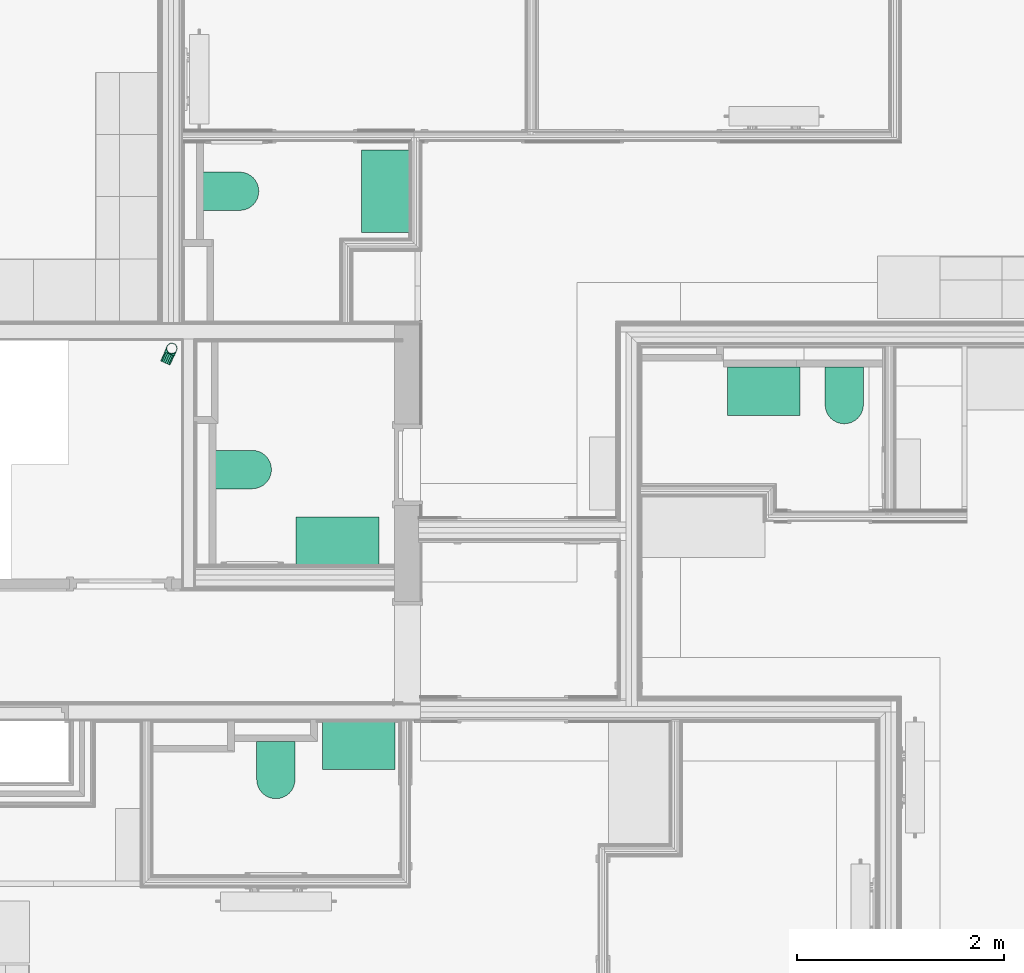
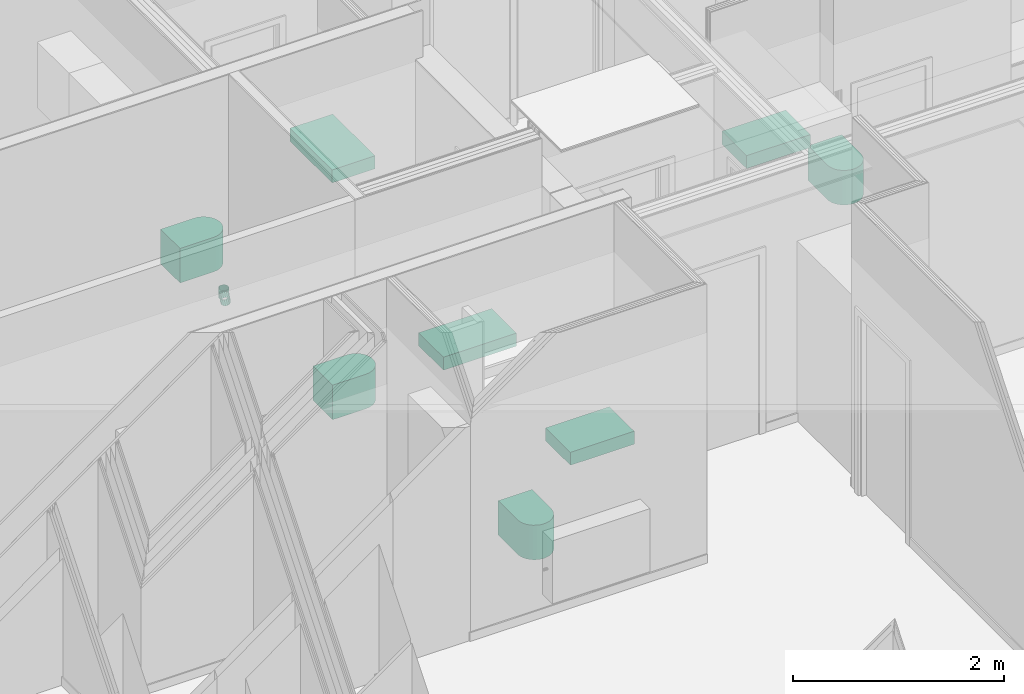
# One storey, part 62 of 65: 8 flow terminals, 1 flow fitting, 1 flow segment.
"""IFC2X3 building model written with IfcOpenShell, lengths in metres."""

from ifc_helpers import new_model, entity, si_unit, converted_unit, derived_unit, money_unit, direction, frame, origin_with_axes, place, context, subcontext, project, spatial, open_shell, faceted_brep, surface_model, material, type_object, element, save


model = new_model("IFC2X3")

# Units and contexts
model_context = context("Model", 3, precision=1e-05, world=origin_with_axes(), true_north=direction((0.0, 1.0)))
body_context = subcontext(model_context, "Body", "Model", "MODEL_VIEW", scale=1.0)
ifc_project = project(units=[si_unit("LENGTHUNIT", "METRE"), si_unit("AREAUNIT", "SQUARE_METRE"), si_unit("VOLUMEUNIT", "CUBIC_METRE"), si_unit("ABSORBEDDOSEUNIT", "GRAY"), si_unit("AMOUNTOFSUBSTANCEUNIT", "MOLE"), si_unit("DOSEEQUIVALENTUNIT", "SIEVERT"), si_unit("ELECTRICCAPACITANCEUNIT", "FARAD"), si_unit("ELECTRICCHARGEUNIT", "COULOMB"), si_unit("ELECTRICCONDUCTANCEUNIT", "SIEMENS"), si_unit("ELECTRICCURRENTUNIT", "AMPERE"), si_unit("ELECTRICRESISTANCEUNIT", "OHM"), si_unit("ELECTRICVOLTAGEUNIT", "VOLT"), si_unit("ENERGYUNIT", "JOULE"), si_unit("FORCEUNIT", "NEWTON"), si_unit("FREQUENCYUNIT", "HERTZ"), si_unit("ILLUMINANCEUNIT", "LUX"), si_unit("INDUCTANCEUNIT", "HENRY"), si_unit("LUMINOUSFLUXUNIT", "LUMEN"), si_unit("LUMINOUSINTENSITYUNIT", "CANDELA"), si_unit("MAGNETICFLUXDENSITYUNIT", "TESLA"), si_unit("MAGNETICFLUXUNIT", "WEBER"), si_unit("MASSUNIT", "GRAM"), converted_unit("PLANEANGLEUNIT", "degree", entity("IfcReal", 0.0174532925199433), si_unit("PLANEANGLEUNIT", "RADIAN"), dimensions=[0, 0, 0, 0, 0, 0, 0]), si_unit("POWERUNIT", "WATT"), si_unit("PRESSUREUNIT", "PASCAL"), si_unit("RADIOACTIVITYUNIT", "BECQUEREL"), si_unit("SOLIDANGLEUNIT", "STERADIAN"), si_unit("THERMODYNAMICTEMPERATUREUNIT", "KELVIN"), si_unit("TIMEUNIT", "SECOND"), derived_unit("ACCELERATIONUNIT", [(si_unit("LENGTHUNIT", "METRE"), 1), (si_unit("TIMEUNIT", "SECOND"), -2)]), derived_unit("ANGULARVELOCITYUNIT", [(converted_unit("PLANEANGLEUNIT", "degree", entity("IfcReal", 0.0174532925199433), si_unit("PLANEANGLEUNIT", "RADIAN"), dimensions=[0, 0, 0, 0, 0, 0, 0]), 1), (si_unit("TIMEUNIT", "SECOND"), -1)]), derived_unit("CURVATUREUNIT", [(converted_unit("PLANEANGLEUNIT", "degree", entity("IfcReal", 0.0174532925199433), si_unit("PLANEANGLEUNIT", "RADIAN"), dimensions=[0, 0, 0, 0, 0, 0, 0]), 1), (si_unit("LENGTHUNIT", "METRE"), -1)]), derived_unit("DYNAMICVISCOSITYUNIT", [(si_unit("PRESSUREUNIT", "PASCAL"), 1), (si_unit("TIMEUNIT", "SECOND"), 1)]), derived_unit("HEATFLUXDENSITYUNIT", [(si_unit("POWERUNIT", "WATT"), 1), (si_unit("LENGTHUNIT", "METRE"), -2)]), derived_unit("HEATINGVALUEUNIT", [(si_unit("ENERGYUNIT", "JOULE"), 1), (si_unit("MASSUNIT", "GRAM"), -1)]), derived_unit("INTEGERCOUNTRATEUNIT", [(si_unit("TIMEUNIT", "SECOND"), -1)]), derived_unit("IONCONCENTRATIONUNIT", [(si_unit("MASSUNIT", "GRAM"), 1), (si_unit("VOLUMEUNIT", "CUBIC_METRE"), -1)]), derived_unit("ISOTHERMALMOISTURECAPACITYUNIT", [(si_unit("VOLUMEUNIT", "CUBIC_METRE"), 1), (si_unit("MASSUNIT", "GRAM"), -1)]), derived_unit("KINEMATICVISCOSITYUNIT", [(si_unit("AREAUNIT", "SQUARE_METRE"), 1), (si_unit("TIMEUNIT", "SECOND"), -1)]), derived_unit("LINEARFORCEUNIT", [(si_unit("FORCEUNIT", "NEWTON"), 1), (si_unit("LENGTHUNIT", "METRE"), -1)]), derived_unit("LINEARMOMENTUNIT", [(si_unit("FORCEUNIT", "NEWTON"), 1), (si_unit("LENGTHUNIT", "METRE"), -1)]), derived_unit("LINEARSTIFFNESSUNIT", [(si_unit("FORCEUNIT", "NEWTON"), 1), (si_unit("LENGTHUNIT", "METRE"), -1)]), derived_unit("LINEARVELOCITYUNIT", [(si_unit("LENGTHUNIT", "METRE"), 1), (si_unit("TIMEUNIT", "SECOND"), -1)]), derived_unit("LUMINOUSINTENSITYDISTRIBUTIONUNIT", [(si_unit("LUMINOUSINTENSITYUNIT", "CANDELA"), 1), (si_unit("LUMINOUSFLUXUNIT", "LUMEN"), -1)]), derived_unit("MASSDENSITYUNIT", [(si_unit("MASSUNIT", "GRAM"), 1), (si_unit("VOLUMEUNIT", "CUBIC_METRE"), -1)]), derived_unit("MASSFLOWRATEUNIT", [(si_unit("MASSUNIT", "GRAM"), 1), (si_unit("TIMEUNIT", "SECOND"), -1)]), derived_unit("MASSPERLENGTHUNIT", [(si_unit("MASSUNIT", "GRAM"), 1), (si_unit("LENGTHUNIT", "METRE"), -1)]), derived_unit("MODULUSOFELASTICITYUNIT", [(si_unit("FORCEUNIT", "NEWTON"), 1), (si_unit("AREAUNIT", "SQUARE_METRE"), -1)]), derived_unit("MODULUSOFLINEARSUBGRADEREACTIONUNIT", [(si_unit("FORCEUNIT", "NEWTON"), 1), (si_unit("LENGTHUNIT", "METRE"), -2)]), derived_unit("MODULUSOFROTATIONALSUBGRADEREACTIONUNIT", [(si_unit("FORCEUNIT", "NEWTON"), 1), (si_unit("LENGTHUNIT", "METRE"), 1)]), derived_unit("MODULUSOFSUBGRADEREACTIONUNIT", [(si_unit("FORCEUNIT", "NEWTON"), 1), (si_unit("VOLUMEUNIT", "CUBIC_METRE"), -1)]), derived_unit("MOISTUREDIFFUSIVITYUNIT", [(si_unit("VOLUMEUNIT", "CUBIC_METRE"), 1), (si_unit("TIMEUNIT", "SECOND"), -1)]), derived_unit("MOLECULARWEIGHTUNIT", [(si_unit("MASSUNIT", "GRAM"), 1), (si_unit("AMOUNTOFSUBSTANCEUNIT", "MOLE"), -1)]), derived_unit("PLANARFORCEUNIT", [(si_unit("FORCEUNIT", "NEWTON"), 1), (si_unit("LENGTHUNIT", "METRE"), -2)]), derived_unit("ROTATIONALFREQUENCYUNIT", [(si_unit("TIMEUNIT", "SECOND"), -1)]), derived_unit("ROTATIONALMASSUNIT", [(si_unit("MASSUNIT", "GRAM"), 1), (si_unit("LENGTHUNIT", "METRE"), 2)]), derived_unit("ROTATIONALSTIFFNESSUNIT", [(si_unit("FORCEUNIT", "NEWTON"), 1), (si_unit("LENGTHUNIT", "METRE"), 1), (converted_unit("PLANEANGLEUNIT", "degree", entity("IfcReal", 0.0174532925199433), si_unit("PLANEANGLEUNIT", "RADIAN"), dimensions=[0, 0, 0, 0, 0, 0, 0]), -1)]), derived_unit("SECTIONAREAINTEGRALUNIT", [(si_unit("LENGTHUNIT", "METRE"), 5)]), derived_unit("SECTIONMODULUSUNIT", [(si_unit("LENGTHUNIT", "METRE"), 3)]), derived_unit("SHEARMODULUSUNIT", [(si_unit("FORCEUNIT", "NEWTON"), 1), (si_unit("AREAUNIT", "SQUARE_METRE"), -1)]), derived_unit("SOUNDPOWERUNIT", [(si_unit("ENERGYUNIT", "JOULE"), 1), (si_unit("TIMEUNIT", "SECOND"), -1)]), derived_unit("SPECIFICHEATCAPACITYUNIT", [(si_unit("FORCEUNIT", "NEWTON"), 1), (si_unit("MASSUNIT", "GRAM"), -1), (si_unit("THERMODYNAMICTEMPERATUREUNIT", "KELVIN"), -1)]), derived_unit("TEMPERATUREGRADIENTUNIT", [(si_unit("THERMODYNAMICTEMPERATUREUNIT", "KELVIN"), 1), (si_unit("LENGTHUNIT", "METRE"), -1)]), derived_unit("THERMALADMITTANCEUNIT", [(si_unit("POWERUNIT", "WATT"), 1), (si_unit("AREAUNIT", "SQUARE_METRE"), -1), (si_unit("THERMODYNAMICTEMPERATUREUNIT", "KELVIN"), -1)]), derived_unit("THERMALCONDUCTANCEUNIT", [(si_unit("POWERUNIT", "WATT"), 1), (si_unit("LENGTHUNIT", "METRE"), -1), (si_unit("THERMODYNAMICTEMPERATUREUNIT", "KELVIN"), -1)]), derived_unit("THERMALEXPANSIONCOEFFICIENTUNIT", [(si_unit("THERMODYNAMICTEMPERATUREUNIT", "KELVIN"), -1)]), derived_unit("THERMALRESISTANCEUNIT", [(si_unit("AREAUNIT", "SQUARE_METRE"), 1), (si_unit("POWERUNIT", "WATT"), -1)]), derived_unit("THERMALTRANSMITTANCEUNIT", [(si_unit("POWERUNIT", "WATT"), 1), (si_unit("AREAUNIT", "SQUARE_METRE"), -1), (si_unit("THERMODYNAMICTEMPERATUREUNIT", "KELVIN"), -1)]), derived_unit("TORQUEUNIT", [(si_unit("FORCEUNIT", "NEWTON"), 1), (si_unit("LENGTHUNIT", "METRE"), 1)]), derived_unit("VAPORPERMEABILITYUNIT", [(si_unit("MASSUNIT", "GRAM"), 1), (si_unit("TIMEUNIT", "SECOND"), -1)]), derived_unit("VOLUMETRICFLOWRATEUNIT", [(si_unit("VOLUMEUNIT", "CUBIC_METRE"), 1), (si_unit("TIMEUNIT", "SECOND"), -1)]), derived_unit("WARPINGCONSTANTUNIT", [(si_unit("LENGTHUNIT", "METRE"), 6)]), derived_unit("WARPINGMOMENTUNIT", [(si_unit("FORCEUNIT", "NEWTON"), 1), (si_unit("LENGTHUNIT", "METRE"), 2)]), money_unit("GBP")], contexts=[model_context])

# Site, building, storey, space
site_placement = place(None, origin_with_axes())
site = spatial("IfcSite", under=ifc_project, at=site_placement, Name="Site", CompositionType="ELEMENT")
building_placement = place(site_placement, origin_with_axes())
building = spatial("IfcBuilding", under=site, at=building_placement, Name="Building01", CompositionType="ELEMENT")
storey_placement = place(building_placement, frame((0.0, 0.0, 8.64), z_axis=(0.0, 0.0, 1.0), x_axis=(1.0, 0.0, 0.0)))
storey = spatial("IfcBuildingStorey", under=building, at=storey_placement, Name="2F", CompositionType="ELEMENT", Elevation=8.64)
space_1_placement = place(storey_placement, frame((14.606971, 7.454282, 0.017932), z_axis=(0.0, 0.0, 1.0), x_axis=(-1.0, 0.0, 0.0)))
space_1 = spatial("IfcSpace", under=storey, at=space_1_placement, Name="landing", CompositionType="ELEMENT", InteriorOrExteriorSpace="NOTDEFINED")

# Flow segment
ifc_material_1 = material(Name="M_BSUK_Ventilation")
duct_segment_type = type_object("IfcDuctSegmentType", Name="M-RoundDuct", PredefinedType="RIGIDSEGMENT")
placement = place(building_placement, origin_with_axes())
flow_segment_placement = place(placement, frame((15.541302, 8.430558, 9.439648), z_axis=(0.0, 0.0, -1.0), x_axis=(0.40708484, 0.91339035, 0.0)))
element("IfcFlowSegment", 1, at=flow_segment_placement, inside=space_1, type_object=duct_segment_type, material=ifc_material_1, Name="M-RoundDuct", ObjectType="M-RoundDuct", context=body_context, shape_type="Brep", body=[
    faceted_brep([(0.1, 0.0, -0.05), (0.0, 0.0, -0.05), (0.0, 0.019134, -0.046194), (0.1, 0.019134, -0.046194), (0.0, 0.035355, -0.035355), (0.1, 0.035355, -0.035355), (0.0, 0.046194, -0.019134), (0.1, 0.046194, -0.019134), (0.0, 0.05, 0.0), (0.1, 0.05, 0.0), (0.0, 0.046194, 0.019134), (0.1, 0.046194, 0.019134), (0.0, 0.035355, 0.035355), (0.1, 0.035355, 0.035355), (0.0, 0.019134, 0.046194), (0.1, 0.019134, 0.046194), (0.0, 0.0, 0.05), (0.1, 0.0, 0.05), (0.0, -0.019134, 0.046194), (0.1, -0.019134, 0.046194), (0.0, -0.035355, 0.035355), (0.1, -0.035355, 0.035355), (0.0, -0.046194, 0.019134), (0.1, -0.046194, 0.019134), (0.0, -0.05, 0.0), (0.1, -0.05, 0.0), (0.0, -0.046194, -0.019134), (0.1, -0.046194, -0.019134), (0.0, -0.035355, -0.035355), (0.1, -0.035355, -0.035355), (0.0, -0.019134, -0.046194), (0.1, -0.019134, -0.046194)], [[[0, 1, 2, 3]], [[3, 2, 4, 5]], [[5, 4, 6, 7]], [[7, 6, 8, 9]], [[9, 8, 10, 11]], [[11, 10, 12, 13]], [[13, 12, 14, 15]], [[15, 14, 16, 17]], [[17, 16, 18, 19]], [[19, 18, 20, 21]], [[21, 20, 22, 23]], [[23, 22, 24, 25]], [[25, 24, 26, 27]], [[27, 26, 28, 29]], [[29, 28, 30, 31]], [[31, 30, 1, 0]]]),
])

# Flow fitting
ifc_material_2 = material(Name="M_BSUK_ColdWater")
pipe_fitting_type = type_object("IfcPipeFittingType", Name="M-BmpTee-DefaultTee", PredefinedType="JUNCTION")
flow_fitting_placement = place(placement, frame((15.604265, 8.57241, 9.389919), z_axis=(0.39563745, 0.91840678, 0.0), x_axis=(0.0, 0.0, 1.0)))
element("IfcFlowFitting", 2, at=flow_fitting_placement, inside=space_1, type_object=pipe_fitting_type, material=ifc_material_2, Name="M-BmpTee-DefaultTee", ObjectType="M-BmpTee-DefaultTee", context=body_context, shape_type="SurfaceModel", body=[
    surface_model("IfcShellBasedSurfaceModel", [(0.068757, 0.046194, -0.019134), (0.06921, 0.046194, -0.055386), (0.050077, 0.05, -0.055626), (0.085182, 0.035355, -0.035355), (0.08543, 0.035355, -0.055184), (0.096157, 0.019134, -0.046194), (0.096268, 0.019134, -0.055048), (0.099038, 0.009755, -0.049039), (0.100011, 0.0, -0.05), (0.100073, 0.0, -0.055001), (0.099038, -0.009755, -0.049039), (0.096157, -0.019134, -0.046194), (0.096268, -0.019134, -0.055048), (0.091478, -0.027779, -0.041573), (0.085182, -0.035355, -0.035355), (0.08543, -0.035355, -0.055184), (0.07751, -0.041573, -0.027779), (0.068757, -0.046194, -0.019134), (0.06921, -0.046194, -0.055386), (0.059259, -0.049039, -0.009755), (0.049382, -0.05, 0.0), (0.050077, -0.05, -0.055626), (0.030485, -0.046194, -0.019134), (0.030945, -0.046194, -0.055865), (0.014466, -0.035355, -0.035355), (0.014725, -0.035355, -0.056067), (0.003762, -0.019134, -0.046194), (0.003887, -0.019134, -0.056203), (0.000952, -0.009755, -0.049039), (3e-06, 0.0, -0.05), (8.1e-05, 0.0, -0.056251), (0.000952, 0.009755, -0.049039), (0.003762, 0.019134, -0.046194), (0.003887, 0.019134, -0.056203), (0.008325, 0.027779, -0.041573), (0.014466, 0.035355, -0.035355), (0.014725, 0.035355, -0.056067), (0.021948, 0.041573, -0.027779), (0.030485, 0.046194, -0.019134), (0.030945, 0.046194, -0.055865), (0.039749, 0.049039, -0.009755), (0.049382, 0.05, 0.0), (0.008325, -0.027779, -0.041573), (0.021948, -0.041573, -0.027779), (0.039749, -0.049039, -0.009755), (0.091478, 0.027779, -0.041573), (0.07751, 0.041573, -0.027779), (0.059259, 0.049039, -0.009755), (-0.005, -0.05, 0.0), (0.105012, -0.05, 0.0), (0.105012, -0.046194, 0.019134), (-0.005, -0.046194, 0.019134), (0.105012, -0.035355, 0.035355), (-0.005, -0.035355, 0.035355), (0.105012, -0.019134, 0.046194), (-0.005, -0.019134, 0.046194), (0.105012, 0.0, 0.05), (-0.005, 0.0, 0.05), (0.105012, 0.019134, 0.046194), (-0.005, 0.019134, 0.046194), (0.105012, 0.035355, 0.035355), (-0.005, 0.035355, 0.035355), (0.105012, 0.046194, 0.019134), (-0.005, 0.046194, 0.019134), (0.105012, 0.05, 0.0), (-0.005, 0.05, 0.0), (0.105012, -0.046194, -0.019134), (0.105012, -0.035355, -0.035355), (0.105012, -0.019134, -0.046194), (0.105012, 0.0, -0.05), (0.105012, 0.019134, -0.046194), (0.105012, 0.035355, -0.035355), (0.105012, 0.046194, -0.019134), (-0.005, 0.046194, -0.019134), (-0.005, 0.035355, -0.035355), (-0.005, 0.019134, -0.046194), (-0.005, 0.0, -0.05), (-0.005, -0.019134, -0.046194), (-0.005, -0.035355, -0.035355), (-0.005, -0.046194, -0.019134)], [open_shell([[[0, 1, 2]], [[3, 4, 1]], [[5, 6, 4]], [[7, 8, 9]], [[10, 11, 12]], [[13, 14, 15]], [[16, 17, 18]], [[19, 20, 21]], [[22, 23, 21]], [[24, 25, 23]], [[26, 27, 25]], [[28, 29, 30]], [[31, 32, 33]], [[34, 35, 36]], [[37, 38, 39]], [[40, 41, 2]], [[38, 40, 2]], [[2, 39, 38]], [[35, 37, 39]], [[39, 36, 35]], [[32, 34, 36]], [[36, 33, 32]], [[31, 33, 30]], [[30, 29, 31]], [[27, 26, 28]], [[30, 27, 28]], [[25, 24, 42]], [[25, 42, 26]], [[23, 22, 43]], [[23, 43, 24]], [[21, 20, 44]], [[21, 44, 22]], [[17, 19, 21]], [[21, 18, 17]], [[14, 16, 18]], [[18, 15, 14]], [[11, 13, 15]], [[15, 12, 11]], [[10, 12, 9]], [[9, 8, 10]], [[6, 5, 7]], [[9, 6, 7]], [[4, 3, 45]], [[4, 45, 5]], [[1, 0, 46]], [[1, 46, 3]], [[2, 41, 47]], [[2, 47, 0]], [[48, 20, 49, 50, 51]], [[51, 50, 52, 53]], [[53, 52, 54, 55]], [[55, 54, 56, 57]], [[57, 56, 58, 59]], [[59, 58, 60, 61]], [[61, 60, 62, 63]], [[63, 62, 64, 41, 65]], [[17, 66, 49]], [[14, 67, 66]], [[11, 68, 67]], [[10, 8, 69]], [[7, 5, 70]], [[45, 3, 71]], [[46, 0, 72]], [[47, 41, 64]], [[38, 73, 65]], [[35, 74, 73]], [[32, 75, 74]], [[31, 29, 76]], [[28, 26, 77]], [[42, 24, 78]], [[43, 22, 79]], [[44, 20, 48]], [[22, 44, 48]], [[48, 79, 22]], [[24, 43, 79]], [[79, 78, 24]], [[26, 42, 78]], [[78, 77, 26]], [[28, 77, 76]], [[76, 29, 28]], [[75, 32, 31]], [[76, 75, 31]], [[74, 35, 34]], [[74, 34, 32]], [[73, 38, 37]], [[73, 37, 35]], [[65, 41, 40]], [[65, 40, 38]], [[0, 47, 64]], [[64, 72, 0]], [[3, 46, 72]], [[72, 71, 3]], [[5, 45, 71]], [[71, 70, 5]], [[7, 70, 69]], [[69, 8, 7]], [[68, 11, 10]], [[69, 68, 10]], [[67, 14, 13]], [[67, 13, 11]], [[66, 17, 16]], [[66, 16, 14]], [[49, 20, 19]], [[49, 19, 17]]])]),
])

# Space
space_2_placement = place(storey_placement, frame((15.83, 8.82, 0.017975), z_axis=(0.0, 0.0, 1.0), x_axis=(0.0, -1.0, 0.0)))
space_2 = spatial("IfcSpace", under=storey, at=space_2_placement, Name="09", CompositionType="ELEMENT", InteriorOrExteriorSpace="NOTDEFINED")

# Flow terminals
sanitary_terminal_type_1 = type_object("IfcSanitaryTerminalType", Name="SHE_A-Sink_47x80", PredefinedType="NOTDEFINED")
for number, where, z_axis, x_axis, name in (
    (3, (17.2, 6.71, 0.825), (0.0, 0.0, 1.0), (0.0, -1.0, 0.0), "09"),
    (4, (17.67, 10.087491, 0.825), (0.0, 0.0, 1.0), (1.0, 0.0, 0.0), "09"),
):
    element("IfcFlowTerminal", number, at=place(storey_placement, frame(where, z_axis=z_axis, x_axis=x_axis)), inside=space_2, type_object=sanitary_terminal_type_1, Name=name, ObjectType="SHE_A-Sink_47x80", context=body_context, shape_type="Brep", body=[
        faceted_brep([(-0.235, 0.4, -0.075), (-0.235, 0.4, 0.075), (0.235, 0.4, 0.075), (0.235, 0.4, -0.075), (-0.235, -0.4, -0.075), (-0.235, -0.4, 0.075), (0.235, -0.4, -0.075), (0.235, -0.4, 0.075)], [[[0, 1, 2, 3]], [[4, 5, 1, 0]], [[6, 7, 5, 4]], [[3, 2, 7, 6]], [[1, 5, 7, 2]], [[3, 6, 4, 0]]]),
    ])

# Space
space_3_placement = place(storey_placement, frame((20.122661, 5.205, 0.017975), z_axis=(0.0, 0.0, 1.0), x_axis=(1.0, 0.0, 0.0)))
space_3 = spatial("IfcSpace", under=storey, at=space_3_placement, Name="10", CompositionType="ELEMENT", InteriorOrExteriorSpace="NOTDEFINED")

# Flow terminals
sanitary_terminal_type_2 = type_object("IfcSanitaryTerminalType", Name="SHE_A-Toilet_base", PredefinedType="NOTDEFINED")
flow_terminal_1_placement = place(storey_placement, frame((22.088153, 8.119998, 0.2), z_axis=(0.0, 0.0, 1.0), x_axis=(0.0, -1.0, 0.0)))
element("IfcFlowTerminal", 5, at=flow_terminal_1_placement, inside=space_3, type_object=sanitary_terminal_type_2, Name="10", ObjectType="SHE_A-Toilet_base", context=body_context, shape_type="Brep", body=[
    faceted_brep([(0.089995, 0.185008, -0.2), (0.126088, 0.181454, -0.2), (0.160795, 0.170926, -0.2), (0.19278, 0.153829, -0.2), (0.220816, 0.130821, -0.2), (0.243824, 0.102785, -0.2), (0.26092, 0.0708, -0.2), (0.271448, 0.036093, -0.2), (0.275003, 0.0, -0.2), (0.271448, -0.036093, -0.2), (0.26092, -0.0708, -0.2), (0.243824, -0.102785, -0.2), (0.220816, -0.130821, -0.2), (0.19278, -0.153829, -0.2), (0.160795, -0.170926, -0.2), (0.126088, -0.181454, -0.2), (0.089995, -0.185009, -0.2), (-0.275003, -0.185009, -0.2), (-0.275003, 0.185008, -0.2), (-0.275003, 0.185008, 0.2), (-0.275003, -0.185009, 0.2), (0.089995, -0.185009, 0.2), (0.126088, -0.181454, 0.2), (0.160795, -0.170926, 0.2), (0.19278, -0.153829, 0.2), (0.220816, -0.130821, 0.2), (0.243824, -0.102785, 0.2), (0.26092, -0.0708, 0.2), (0.271448, -0.036093, 0.2), (0.275003, 0.0, 0.2), (0.271448, 0.036093, 0.2), (0.26092, 0.0708, 0.2), (0.243824, 0.102785, 0.2), (0.220816, 0.130821, 0.2), (0.19278, 0.153829, 0.2), (0.160795, 0.170926, 0.2), (0.126088, 0.181454, 0.2), (0.089995, 0.185008, 0.2)], [[[0, 1, 2, 3, 4, 5, 6, 7, 8, 9, 10, 11, 12, 13, 14, 15, 16, 17, 18]], [[19, 20, 21, 22, 23, 24, 25, 26, 27, 28, 29, 30, 31, 32, 33, 34, 35, 36, 37]], [[15, 22, 21, 16]], [[14, 23, 22, 15]], [[13, 24, 23, 14]], [[12, 25, 24, 13]], [[11, 26, 25, 12]], [[10, 27, 26, 11]], [[9, 28, 27, 10]], [[8, 29, 28, 9]], [[7, 30, 29, 8]], [[6, 31, 30, 7]], [[5, 32, 31, 6]], [[4, 33, 32, 5]], [[3, 34, 33, 4]], [[2, 35, 34, 3]], [[1, 36, 35, 2]], [[0, 37, 36, 1]], [[16, 21, 20, 17]], [[17, 20, 19, 18]], [[18, 19, 37, 0]]]),
])
flow_terminal_2_placement = place(storey_placement, frame((16.290003, 7.40388, 0.2), z_axis=(0.0, 0.0, 1.0), x_axis=(1.0, 0.0, 0.0)))
element("IfcFlowTerminal", 6, at=flow_terminal_2_placement, inside=space_2, type_object=sanitary_terminal_type_2, Name="09", ObjectType="SHE_A-Toilet_base", context=body_context, shape_type="Brep", body=[
    faceted_brep([(0.089995, 0.185008, -0.2), (0.126088, 0.181454, -0.2), (0.160795, 0.170926, -0.2), (0.19278, 0.153829, -0.2), (0.220816, 0.130821, -0.2), (0.243824, 0.102785, -0.2), (0.26092, 0.0708, -0.2), (0.271448, 0.036093, -0.2), (0.275003, 0.0, -0.2), (0.271448, -0.036093, -0.2), (0.26092, -0.0708, -0.2), (0.243824, -0.102785, -0.2), (0.220816, -0.130821, -0.2), (0.19278, -0.153829, -0.2), (0.160795, -0.170926, -0.2), (0.126088, -0.181454, -0.2), (0.089995, -0.185009, -0.2), (-0.275003, -0.185009, -0.2), (-0.275003, 0.185008, -0.2), (-0.275003, 0.185008, 0.2), (-0.275003, -0.185009, 0.2), (0.089995, -0.185009, 0.2), (0.126088, -0.181454, 0.2), (0.160795, -0.170926, 0.2), (0.19278, -0.153829, 0.2), (0.220816, -0.130821, 0.2), (0.243824, -0.102785, 0.2), (0.26092, -0.0708, 0.2), (0.271448, -0.036093, 0.2), (0.275003, 0.0, 0.2), (0.271448, 0.036093, 0.2), (0.26092, 0.0708, 0.2), (0.243824, 0.102785, 0.2), (0.220816, 0.130821, 0.2), (0.19278, 0.153829, 0.2), (0.160795, 0.170926, 0.2), (0.126088, 0.181454, 0.2), (0.089995, 0.185008, 0.2)], [[[0, 1, 2, 3, 4, 5, 6, 7, 8, 9, 10, 11, 12, 13, 14, 15, 16, 17, 18]], [[19, 20, 21, 22, 23, 24, 25, 26, 27, 28, 29, 30, 31, 32, 33, 34, 35, 36, 37]], [[15, 22, 21, 16]], [[14, 23, 22, 15]], [[13, 24, 23, 14]], [[12, 25, 24, 13]], [[11, 26, 25, 12]], [[10, 27, 26, 11]], [[9, 28, 27, 10]], [[8, 29, 28, 9]], [[7, 30, 29, 8]], [[6, 31, 30, 7]], [[5, 32, 31, 6]], [[4, 33, 32, 5]], [[3, 34, 33, 4]], [[2, 35, 34, 3]], [[1, 36, 35, 2]], [[0, 37, 36, 1]], [[16, 21, 20, 17]], [[17, 20, 19, 18]], [[18, 19, 37, 0]]]),
])

# Space
space_4_placement = place(storey_placement, frame((17.8075, 4.98, 0.017975), z_axis=(0.0, 0.0, 1.0), x_axis=(-1.0, 0.0, 0.0)))
space_4 = spatial("IfcSpace", under=storey, at=space_4_placement, Name="bath", CompositionType="ELEMENT", InteriorOrExteriorSpace="NOTDEFINED")

# Flow terminals
flow_terminal_3_placement = place(storey_placement, frame((16.607508, 4.504997, 0.2), z_axis=(0.0, 0.0, 1.0), x_axis=(0.0, 1.0, 0.0)))
element("IfcFlowTerminal", 7, at=flow_terminal_3_placement, inside=space_4, type_object=sanitary_terminal_type_2, Name="11", ObjectType="SHE_A-Toilet_base", context=body_context, shape_type="Brep", body=[
    faceted_brep([(0.275003, 0.185008, -0.2), (0.275003, -0.185009, -0.2), (-0.089995, -0.185009, -0.2), (-0.126088, -0.181454, -0.2), (-0.160795, -0.170926, -0.2), (-0.19278, -0.153829, -0.2), (-0.220816, -0.130821, -0.2), (-0.243824, -0.102785, -0.2), (-0.26092, -0.0708, -0.2), (-0.271448, -0.036093, -0.2), (-0.275003, 0.0, -0.2), (-0.271448, 0.036093, -0.2), (-0.26092, 0.0708, -0.2), (-0.243824, 0.102785, -0.2), (-0.220816, 0.130821, -0.2), (-0.19278, 0.153829, -0.2), (-0.160795, 0.170926, -0.2), (-0.126088, 0.181454, -0.2), (-0.089995, 0.185008, -0.2), (-0.089995, 0.185008, 0.2), (-0.126088, 0.181454, 0.2), (-0.160795, 0.170926, 0.2), (-0.19278, 0.153829, 0.2), (-0.220816, 0.130821, 0.2), (-0.243824, 0.102785, 0.2), (-0.26092, 0.0708, 0.2), (-0.271448, 0.036093, 0.2), (-0.275003, 0.0, 0.2), (-0.271448, -0.036093, 0.2), (-0.26092, -0.0708, 0.2), (-0.243824, -0.102785, 0.2), (-0.220816, -0.130821, 0.2), (-0.19278, -0.153829, 0.2), (-0.160795, -0.170926, 0.2), (-0.126088, -0.181454, 0.2), (-0.089995, -0.185009, 0.2), (0.275003, -0.185009, 0.2), (0.275003, 0.185008, 0.2)], [[[0, 1, 2, 3, 4, 5, 6, 7, 8, 9, 10, 11, 12, 13, 14, 15, 16, 17, 18]], [[19, 20, 21, 22, 23, 24, 25, 26, 27, 28, 29, 30, 31, 32, 33, 34, 35, 36, 37]], [[2, 35, 34, 3]], [[3, 34, 33, 4]], [[4, 33, 32, 5]], [[5, 32, 31, 6]], [[6, 31, 30, 7]], [[7, 30, 29, 8]], [[8, 29, 28, 9]], [[9, 28, 27, 10]], [[10, 27, 26, 11]], [[11, 26, 25, 12]], [[12, 25, 24, 13]], [[13, 24, 23, 14]], [[14, 23, 22, 15]], [[15, 22, 21, 16]], [[16, 21, 20, 17]], [[17, 20, 19, 18]], [[1, 36, 35, 2]], [[0, 37, 36, 1]], [[18, 19, 37, 0]]]),
])
flow_terminal_4_placement = place(storey_placement, frame((16.168135, 10.087492, 0.2), z_axis=(0.0, 0.0, 1.0), x_axis=(1.0, 0.0, 0.0)))
element("IfcFlowTerminal", 8, at=flow_terminal_4_placement, inside=space_2, type_object=sanitary_terminal_type_2, Name="09", ObjectType="SHE_A-Toilet_base", context=body_context, shape_type="Brep", body=[
    faceted_brep([(0.089995, 0.185008, -0.2), (0.126088, 0.181454, -0.2), (0.160795, 0.170926, -0.2), (0.19278, 0.153829, -0.2), (0.220816, 0.130821, -0.2), (0.243824, 0.102785, -0.2), (0.26092, 0.0708, -0.2), (0.271448, 0.036093, -0.2), (0.275003, 0.0, -0.2), (0.271448, -0.036093, -0.2), (0.26092, -0.0708, -0.2), (0.243824, -0.102785, -0.2), (0.220816, -0.130821, -0.2), (0.19278, -0.153829, -0.2), (0.160795, -0.170926, -0.2), (0.126088, -0.181454, -0.2), (0.089995, -0.185009, -0.2), (-0.275003, -0.185009, -0.2), (-0.275003, 0.185008, -0.2), (-0.275003, 0.185008, 0.2), (-0.275003, -0.185009, 0.2), (0.089995, -0.185009, 0.2), (0.126088, -0.181454, 0.2), (0.160795, -0.170926, 0.2), (0.19278, -0.153829, 0.2), (0.220816, -0.130821, 0.2), (0.243824, -0.102785, 0.2), (0.26092, -0.0708, 0.2), (0.271448, -0.036093, 0.2), (0.275003, 0.0, 0.2), (0.271448, 0.036093, 0.2), (0.26092, 0.0708, 0.2), (0.243824, 0.102785, 0.2), (0.220816, 0.130821, 0.2), (0.19278, 0.153829, 0.2), (0.160795, 0.170926, 0.2), (0.126088, 0.181454, 0.2), (0.089995, 0.185008, 0.2)], [[[0, 1, 2, 3, 4, 5, 6, 7, 8, 9, 10, 11, 12, 13, 14, 15, 16, 17, 18]], [[19, 20, 21, 22, 23, 24, 25, 26, 27, 28, 29, 30, 31, 32, 33, 34, 35, 36, 37]], [[15, 22, 21, 16]], [[14, 23, 22, 15]], [[13, 24, 23, 14]], [[12, 25, 24, 13]], [[11, 26, 25, 12]], [[10, 27, 26, 11]], [[9, 28, 27, 10]], [[8, 29, 28, 9]], [[7, 30, 29, 8]], [[6, 31, 30, 7]], [[5, 32, 31, 6]], [[4, 33, 32, 5]], [[3, 34, 33, 4]], [[2, 35, 34, 3]], [[1, 36, 35, 2]], [[0, 37, 36, 1]], [[16, 21, 20, 17]], [[17, 20, 19, 18]], [[18, 19, 37, 0]]]),
])
sanitary_terminal_type_3 = type_object("IfcSanitaryTerminalType", Name="SHE_A-Sink_47x70", PredefinedType="NOTDEFINED")
flow_terminal_5_placement = place(storey_placement, frame((21.311162, 8.160003, 0.825), z_axis=(0.0, 0.0, 1.0), x_axis=(0.0, -1.0, 0.0)))
element("IfcFlowTerminal", 9, at=flow_terminal_5_placement, inside=space_3, type_object=sanitary_terminal_type_3, Name="10", ObjectType="SHE_A-Sink_47x70", context=body_context, shape_type="Brep", body=[
    faceted_brep([(-0.235, 0.35, -0.075), (-0.235, 0.35, 0.075), (0.235, 0.35, 0.075), (0.235, 0.35, -0.075), (0.235, -0.35, 0.075), (0.235, -0.35, -0.075), (-0.235, -0.35, 0.075), (-0.235, -0.35, -0.075)], [[[0, 1, 2, 3]], [[3, 2, 4, 5]], [[5, 4, 6, 7]], [[7, 6, 1, 0]], [[1, 6, 4, 2]], [[3, 5, 7, 0]]]),
])
flow_terminal_6_placement = place(storey_placement, frame((17.4075, 4.745, 0.825), z_axis=(0.0, 0.0, 1.0), x_axis=(0.0, -1.0, 0.0)))
element("IfcFlowTerminal", 10, at=flow_terminal_6_placement, inside=space_4, type_object=sanitary_terminal_type_3, Name="11", ObjectType="SHE_A-Sink_47x70", context=body_context, shape_type="Brep", body=[
    faceted_brep([(-0.235, 0.35, -0.075), (-0.235, 0.35, 0.075), (0.235, 0.35, 0.075), (0.235, 0.35, -0.075), (0.235, -0.35, 0.075), (0.235, -0.35, -0.075), (-0.235, -0.35, 0.075), (-0.235, -0.35, -0.075)], [[[0, 1, 2, 3]], [[3, 2, 4, 5]], [[5, 4, 6, 7]], [[7, 6, 1, 0]], [[1, 6, 4, 2]], [[3, 5, 7, 0]]]),
])

save(model, "model.ifc")
